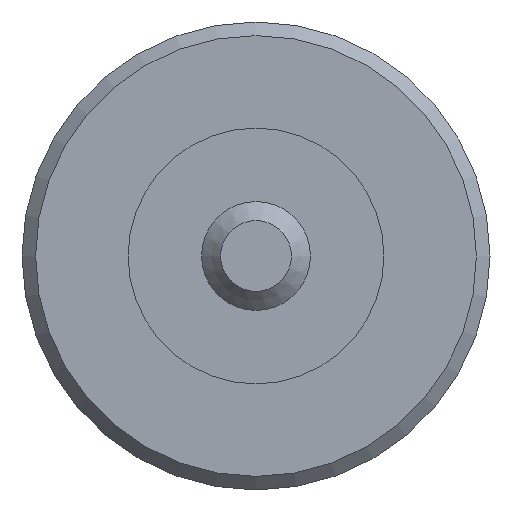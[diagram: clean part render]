
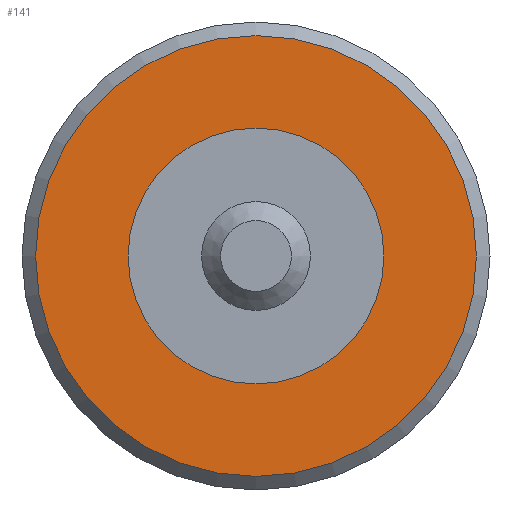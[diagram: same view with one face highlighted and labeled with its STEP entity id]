
A CAD part, left-side view. The second image highlights one B-rep face of the part: STEP entity #141.
In plain terms, the highlighted planar face has unit normal (-1, 0, 0).
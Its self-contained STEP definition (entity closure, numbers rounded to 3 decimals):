
#14=PLANE($,#161);
#26=FACE_BOUND($,#52,.T.);
#27=FACE_BOUND($,#53,.T.);
#52=EDGE_LOOP($,(#107));
#53=EDGE_LOOP($,(#108));
#69=CIRCLE($,#159,1.194);
#70=CIRCLE($,#162,2.057);
#80=VERTEX_POINT($,#235);
#81=VERTEX_POINT($,#239);
#91=EDGE_CURVE($,#80,#80,#69,.T.);
#92=EDGE_CURVE($,#81,#81,#70,.T.);
#107=ORIENTED_EDGE($,*,*,#91,.T.);
#108=ORIENTED_EDGE($,*,*,#92,.F.);
#141=ADVANCED_FACE($,(#26,#27),#14,.T.);
#159=AXIS2_PLACEMENT_3D($,#236,#192,#193);
#161=AXIS2_PLACEMENT_3D($,#238,#196,#197);
#162=AXIS2_PLACEMENT_3D($,#240,#198,#199);
#192=DIRECTION('center_axis',(1.,0.,0.));
#193=DIRECTION('ref_axis',(0.,1.,0.));
#196=DIRECTION('center_axis',(-1.,0.,0.));
#197=DIRECTION('ref_axis',(0.,0.,1.));
#198=DIRECTION('center_axis',(1.,0.,0.));
#199=DIRECTION('ref_axis',(0.,-1.,0.));
#235=CARTESIAN_POINT('',(-7.619,5.556,0.));
#236=CARTESIAN_POINT('Origin',(-7.619,4.362,0.));
#238=CARTESIAN_POINT('Origin',(-7.619,5.455,0.));
#239=CARTESIAN_POINT('',(-7.619,6.42,0.));
#240=CARTESIAN_POINT('Origin',(-7.619,4.362,0.));
